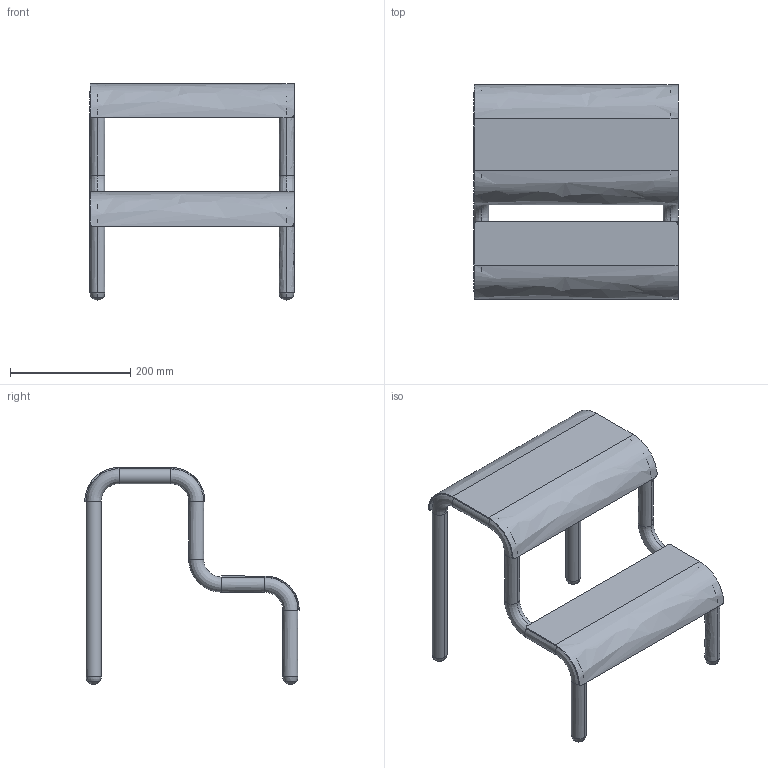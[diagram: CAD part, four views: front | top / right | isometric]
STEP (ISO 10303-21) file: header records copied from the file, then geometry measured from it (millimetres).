
FILE_DESCRIPTION(/* description */ (''),/* implementation_level */ '2;1');
FILE_NAME(/* name */ 'Up Step Stool_3D',/* time_stamp */ '2021-09-02T13:07:59+02:00',/* author */ (''),/* organization */ (''),/* preprocessor_version */ 'ST-DEVELOPER v16.5',/* originating_system */ '',/* authorisation */ '');
FILE_SCHEMA (('CONFIG_CONTROL_DESIGN'));
Length unit declared in the file: millimetre
Products named in the file (1): Document
Bounding box: 340.11 x 357.15 x 361.61 mm (x, y, z)
Volume: 204391.6 mm3; surface area: 454166.4 mm2
Topology: 6 solids, 19 shells, 91 faces, 222 edges, 148 vertices
Faces by surface type: bspline 58, plane 19, cylinder 14
Entity records: 7038 total; most frequent: CARTESIAN_POINT 5687, ORIENTED_EDGE 364, EDGE_CURVE 212, VERTEX_POINT 144, B_SPLINE_CURVE_WITH_KNOTS 106, ADVANCED_FACE 91, FACE_OUTER_BOUND 91, EDGE_LOOP 91
